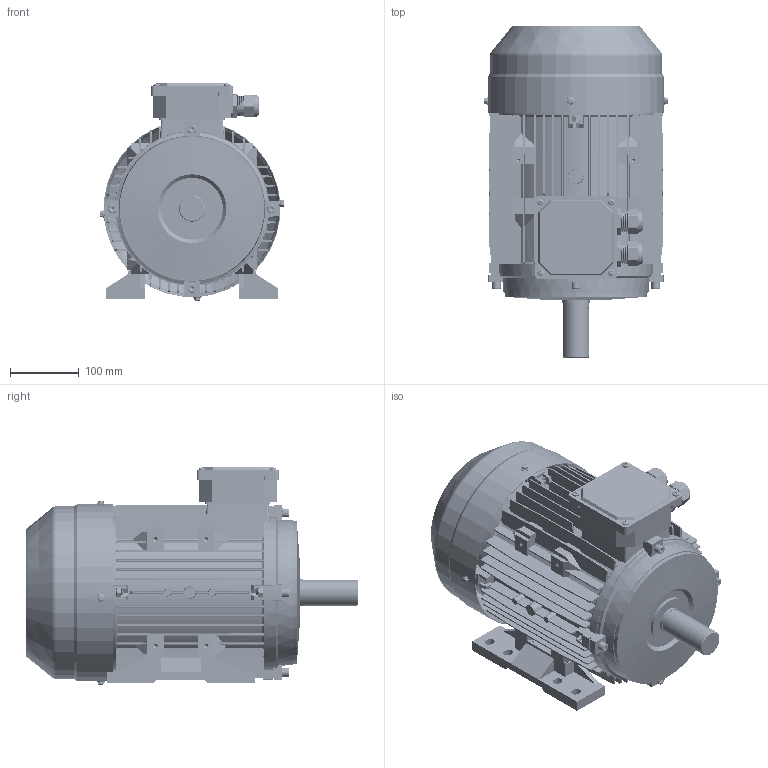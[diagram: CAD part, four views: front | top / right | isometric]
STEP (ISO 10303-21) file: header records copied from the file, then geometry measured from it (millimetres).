
FILE_DESCRIPTION (( 'STEP AP203' ), '1' );
FILE_NAME ('MS132M B3 3D.STEP', '2024-10-24T06:40:16', ( 'User' ), ( 'China' ), 'SwSTEP 2.0', 'SolidWorks 2018', '' );
FILE_SCHEMA (( 'CONFIG_CONTROL_DESIGN' ));
Length unit declared in the file: millimetre
Products named in the file (20): M24 蹟杶; cross recessed pan head screws gb_GB_CROSS_SCREWS_TYPE1 M5X6-6  H type-S; M24 蹟杶簸; MS132M儂褲(242); MS112-132諉盄碟裔; MS132M菁褐; MS132B3綴傷裔; hex flange bolts-heavy grade b gb_GB_FASTENER_BOLT_HFBB M5X10-S; hexagon socket head cap screws gb_GB_FASTENER_SCREWS_HSHCS M8X40-S; deep groove ball bearings gb_Rolling bearings 6208 GB 276-94; MS132M  B3  3D; wave single coil spring lock washers gb_GB_FASTENER_WASHER_WSLW 8; MS132M蛌粣ㄗ468ㄘ; hex nuts, style 2-grades ab gb_GB_HEXAGON_TYPE13 M8 Normal Style-S; deep groove ball bearings gb_Rolling bearings 6308 GB 276-94; hexagon socket head cap screws gb_GB_FASTENER_SCREWS_HSHCS M8X25-S; MS132B3ヶ傷裔; 蚐猾40X58X7; MS112-132 諉盄碟釱; MS132邧脯瑞欶
Assembly tree (60 placements, depth 2):
  MS132M  B3  3D
    MS132M儂褲(242)
    MS132B3綴傷裔
    deep groove ball bearings gb_Rolling bearings 6208 GB 276-94
    MS132M蛌粣ㄗ468ㄘ
    deep groove ball bearings gb_Rolling bearings 6308 GB 276-94
    MS132B3ヶ傷裔
    MS112-132 諉盄碟釱
    M24 蹟杶  x2
    M24 蹟杶簸  x2
    MS132M菁褐  x2
    hexagon socket head cap screws gb_GB_FASTENER_SCREWS_HSHCS M8X40-S  x7
    wave single coil spring lock washers gb_GB_FASTENER_WASHER_WSLW 8  x12
    hex nuts, style 2-grades ab gb_GB_HEXAGON_TYPE13 M8 Normal Style-S  x7
    hexagon socket head cap screws gb_GB_FASTENER_SCREWS_HSHCS M8X25-S  x5
    蚐猾40X58X7
    MS132邧脯瑞欶
    cross recessed pan head screws gb_GB_CROSS_SCREWS_TYPE1 M5X6-6  H type-S  x9
    MS112-132諉盄碟裔
    hex flange bolts-heavy grade b gb_GB_FASTENER_BOLT_HFBB M5X10-S  x4
Bounding box: 267.99 x 483.24 x 316.5 mm (x, y, z)
Volume: 3711740.2 mm3; surface area: 1600431 mm2
Topology: 60 solids, 60 shells, 7808 faces, 18862 edges, 11108 vertices
Faces by surface type: cone 2960, plane 2324, cylinder 2194, torus 194, sphere 82, bspline 54
Entity records: 130350 total; most frequent: CARTESIAN_POINT 35636, ORIENTED_EDGE 19734, DIRECTION 18284, EDGE_CURVE 9867, VERTEX_POINT 6261, AXIS2_PLACEMENT_3D 6248, VECTOR 5788, LINE 5788
